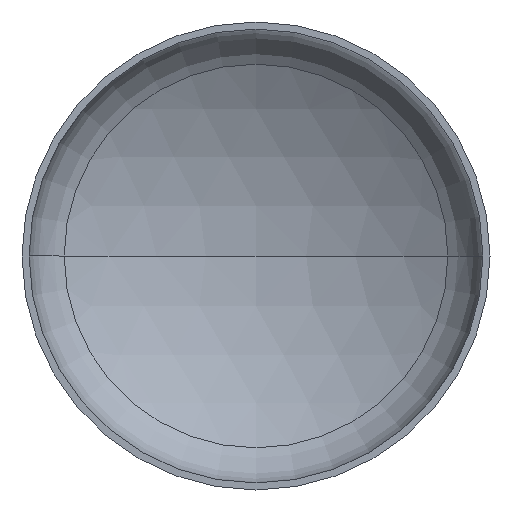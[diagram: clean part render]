
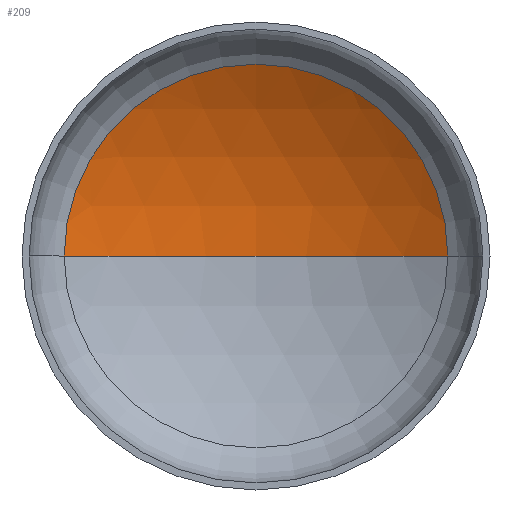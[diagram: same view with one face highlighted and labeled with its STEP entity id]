
A CAD part, front view. The second image highlights one B-rep face of the part: STEP entity #209.
In plain terms, the highlighted spherical face has radius 5200 mm.
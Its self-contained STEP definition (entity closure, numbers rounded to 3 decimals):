
#7 = DIRECTION ( 'NONE',  ( 1., 0., 0. ) ) ;
#39 = VERTEX_POINT ( 'NONE', #245 ) ;
#45 = AXIS2_PLACEMENT_3D ( 'NONE', #235, #155, #146 ) ;
#65 = AXIS2_PLACEMENT_3D ( 'NONE', #177, #202, #7 ) ;
#68 = AXIS2_PLACEMENT_3D ( 'NONE', #175, #178, #181 ) ;
#69 = AXIS2_PLACEMENT_3D ( 'NONE', #216, #217, #206 ) ;
#70 = SPHERICAL_SURFACE ( 'NONE', #45, 5200. ) ;
#97 = CIRCLE ( 'NONE', #65, 5200. ) ;
#103 = ORIENTED_EDGE ( 'NONE', *, *, #134, .T. ) ;
#123 = CIRCLE ( 'NONE', #69, 2664.381 ) ;
#124 = VERTEX_POINT ( 'NONE', #168 ) ;
#129 = ORIENTED_EDGE ( 'NONE', *, *, #140, .T. ) ;
#134 = EDGE_CURVE ( 'NONE', #39, #142, #123, .T. ) ;
#140 = EDGE_CURVE ( 'NONE', #124, #39, #276, .T. ) ;
#141 = EDGE_LOOP ( 'NONE', ( #183, #129, #103 ) ) ;
#142 = VERTEX_POINT ( 'NONE', #292 ) ;
#144 = EDGE_CURVE ( 'NONE', #124, #142, #97, .T. ) ;
#146 = DIRECTION ( 'NONE',  ( -1., 0., 0. ) ) ;
#155 = DIRECTION ( 'NONE',  ( 0., 0., -1. ) ) ;
#168 = CARTESIAN_POINT ( 'NONE',  ( 0., 1693.215, 0. ) ) ;
#175 = CARTESIAN_POINT ( 'NONE',  ( 0., -3506.785, 0. ) ) ;
#177 = CARTESIAN_POINT ( 'NONE',  ( 0., -3506.785, 0. ) ) ;
#178 = DIRECTION ( 'NONE',  ( 0., 0., -1. ) ) ;
#181 = DIRECTION ( 'NONE',  ( -1., 0., 0. ) ) ;
#183 = ORIENTED_EDGE ( 'NONE', *, *, #144, .F. ) ;
#199 = FACE_OUTER_BOUND ( 'NONE', #141, .T. ) ;
#202 = DIRECTION ( 'NONE',  ( 0., 0., 1. ) ) ;
#206 = DIRECTION ( 'NONE',  ( 1., 0., 0. ) ) ;
#209 = ADVANCED_FACE ( 'NONE', ( #199 ), #70, .F. ) ;
#216 = CARTESIAN_POINT ( 'NONE',  ( 0., 958.758, 0. ) ) ;
#217 = DIRECTION ( 'NONE',  ( 0., -1., 0. ) ) ;
#235 = CARTESIAN_POINT ( 'NONE',  ( 0., -3506.785, 0. ) ) ;
#245 = CARTESIAN_POINT ( 'NONE',  ( 2664.381, 958.758, 0. ) ) ;
#276 = CIRCLE ( 'NONE', #68, 5200. ) ;
#292 = CARTESIAN_POINT ( 'NONE',  ( -2664.381, 958.758, 0. ) ) ;
